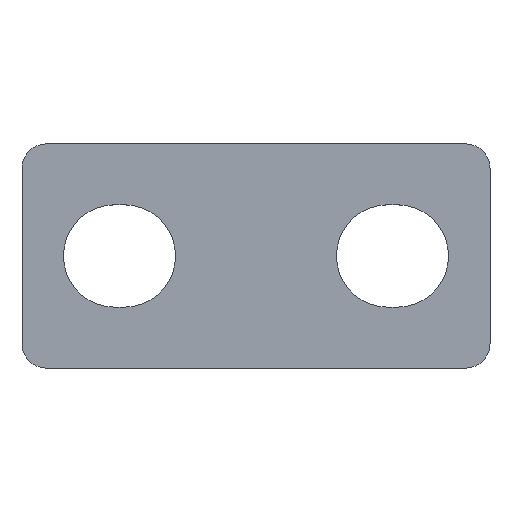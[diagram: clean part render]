
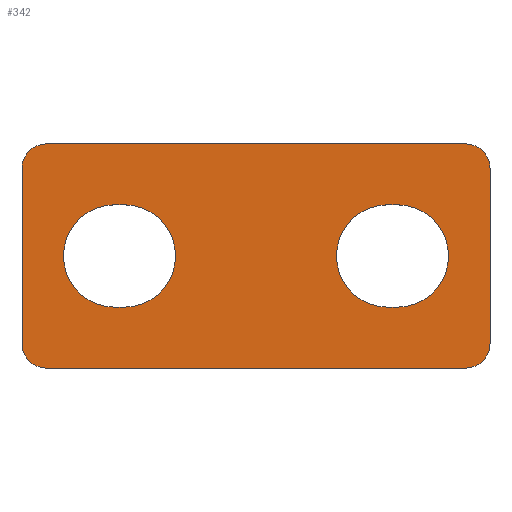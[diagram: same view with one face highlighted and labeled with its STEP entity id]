
A CAD part, top view. The second image highlights one B-rep face of the part: STEP entity #342.
In plain terms, the highlighted planar face has unit normal (0, 0, 1).
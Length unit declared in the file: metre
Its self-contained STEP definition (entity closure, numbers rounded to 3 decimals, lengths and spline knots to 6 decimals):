
#13=CIRCLE('',#367,0.00525);
#15=CIRCLE('',#371,0.00525);
#17=CIRCLE('',#375,0.00525);
#19=CIRCLE('',#378,0.00525);
#20=CIRCLE('',#382,0.0025);
#21=CIRCLE('',#383,0.0025);
#22=CIRCLE('',#384,0.0025);
#23=CIRCLE('',#385,0.0025);
#84=ORIENTED_EDGE('',*,*,#156,.T.);
#85=ORIENTED_EDGE('',*,*,#160,.T.);
#86=ORIENTED_EDGE('',*,*,#163,.T.);
#87=ORIENTED_EDGE('',*,*,#167,.F.);
#88=ORIENTED_EDGE('',*,*,#146,.F.);
#89=ORIENTED_EDGE('',*,*,#150,.T.);
#90=ORIENTED_EDGE('',*,*,#153,.T.);
#91=ORIENTED_EDGE('',*,*,#165,.T.);
#92=ORIENTED_EDGE('',*,*,#142,.T.);
#93=ORIENTED_EDGE('',*,*,#172,.T.);
#94=ORIENTED_EDGE('',*,*,#168,.F.);
#95=ORIENTED_EDGE('',*,*,#173,.T.);
#96=ORIENTED_EDGE('',*,*,#132,.F.);
#97=ORIENTED_EDGE('',*,*,#174,.T.);
#98=ORIENTED_EDGE('',*,*,#136,.T.);
#99=ORIENTED_EDGE('',*,*,#175,.T.);
#132=EDGE_CURVE('',#180,#181,#212,.T.);
#136=EDGE_CURVE('',#184,#185,#216,.T.);
#142=EDGE_CURVE('',#191,#190,#222,.T.);
#146=EDGE_CURVE('',#194,#195,#226,.T.);
#150=EDGE_CURVE('',#194,#197,#13,.T.);
#153=EDGE_CURVE('',#197,#199,#231,.T.);
#156=EDGE_CURVE('',#203,#202,#15,.T.);
#160=EDGE_CURVE('',#202,#205,#236,.T.);
#163=EDGE_CURVE('',#205,#207,#17,.T.);
#165=EDGE_CURVE('',#199,#195,#19,.T.);
#167=EDGE_CURVE('',#203,#207,#239,.T.);
#168=EDGE_CURVE('',#208,#209,#240,.T.);
#172=EDGE_CURVE('',#190,#209,#20,.T.);
#173=EDGE_CURVE('',#208,#181,#21,.T.);
#174=EDGE_CURVE('',#180,#184,#22,.T.);
#175=EDGE_CURVE('',#185,#191,#23,.T.);
#180=VERTEX_POINT('',#500);
#181=VERTEX_POINT('',#501);
#184=VERTEX_POINT('',#509);
#185=VERTEX_POINT('',#510);
#190=VERTEX_POINT('',#521);
#191=VERTEX_POINT('',#523);
#194=VERTEX_POINT('',#530);
#195=VERTEX_POINT('',#532);
#197=VERTEX_POINT('',#538);
#199=VERTEX_POINT('',#544);
#202=VERTEX_POINT('',#551);
#203=VERTEX_POINT('',#553);
#205=VERTEX_POINT('',#559);
#207=VERTEX_POINT('',#565);
#208=VERTEX_POINT('',#575);
#209=VERTEX_POINT('',#576);
#212=LINE('',#499,#244);
#216=LINE('',#508,#248);
#222=LINE('',#522,#254);
#226=LINE('',#531,#258);
#231=LINE('',#545,#263);
#236=LINE('',#560,#268);
#239=LINE('',#572,#271);
#240=LINE('',#574,#272);
#244=VECTOR('',#399,1.);
#248=VECTOR('',#405,1.);
#254=VECTOR('',#413,1.);
#258=VECTOR('',#419,1.);
#263=VECTOR('',#432,1.);
#268=VECTOR('',#445,1.);
#271=VECTOR('',#462,1.);
#272=VECTOR('',#465,1.);
#288=EDGE_LOOP('',(#84,#85,#86,#87));
#289=EDGE_LOOP('',(#88,#89,#90,#91));
#290=EDGE_LOOP('',(#92,#93,#94,#95,#96,#97,#98,#99));
#310=FACE_BOUND('',#288,.T.);
#311=FACE_BOUND('',#289,.T.);
#312=FACE_BOUND('',#290,.T.);
#328=PLANE('',#381);
#342=ADVANCED_FACE('',(#310,#311,#312),#328,.T.);
#367=AXIS2_PLACEMENT_3D('',#539,#426,#427);
#371=AXIS2_PLACEMENT_3D('',#552,#438,#439);
#375=AXIS2_PLACEMENT_3D('',#566,#451,#452);
#378=AXIS2_PLACEMENT_3D('',#569,#457,#458);
#381=AXIS2_PLACEMENT_3D('',#582,#469,#470);
#382=AXIS2_PLACEMENT_3D('',#583,#471,#472);
#383=AXIS2_PLACEMENT_3D('',#584,#473,#474);
#384=AXIS2_PLACEMENT_3D('',#585,#475,#476);
#385=AXIS2_PLACEMENT_3D('',#586,#477,#478);
#399=DIRECTION('',(1.,0.,0.));
#405=DIRECTION('',(0.,-1.,0.));
#413=DIRECTION('',(1.,0.,0.));
#419=DIRECTION('',(-1.,0.,0.));
#426=DIRECTION('',(0.,0.,-1.));
#427=DIRECTION('',(1.,0.,0.));
#432=DIRECTION('',(-1.,0.,0.));
#438=DIRECTION('',(0.,0.,-1.));
#439=DIRECTION('',(1.,0.,0.));
#445=DIRECTION('',(1.,0.,0.));
#451=DIRECTION('',(0.,0.,-1.));
#452=DIRECTION('',(1.,0.,0.));
#457=DIRECTION('',(0.,0.,-1.));
#458=DIRECTION('',(1.,0.,0.));
#462=DIRECTION('',(1.,0.,0.));
#465=DIRECTION('',(0.,-1.,0.));
#469=DIRECTION('',(0.,0.,1.));
#470=DIRECTION('',(1.,0.,0.));
#471=DIRECTION('',(0.,0.,1.));
#472=DIRECTION('',(1.,0.,0.));
#473=DIRECTION('',(0.,0.,1.));
#474=DIRECTION('',(1.,0.,0.));
#475=DIRECTION('',(0.,0.,1.));
#476=DIRECTION('',(1.,0.,0.));
#477=DIRECTION('',(0.,0.,1.));
#478=DIRECTION('',(1.,0.,0.));
#499=CARTESIAN_POINT('',(0.,0.029,0.006));
#500=CARTESIAN_POINT('',(-0.0215,0.029,0.006));
#501=CARTESIAN_POINT('',(0.0215,0.029,0.006));
#508=CARTESIAN_POINT('',(-0.024,0.0175,0.006));
#509=CARTESIAN_POINT('',(-0.024,0.0265,0.006));
#510=CARTESIAN_POINT('',(-0.024,0.0085,0.006));
#521=CARTESIAN_POINT('',(0.0215,0.006,0.006));
#522=CARTESIAN_POINT('',(0.,0.006,0.006));
#523=CARTESIAN_POINT('',(-0.0215,0.006,0.006));
#530=CARTESIAN_POINT('',(0.0145,0.02275,0.006));
#531=CARTESIAN_POINT('',(0.014,0.02275,0.006));
#532=CARTESIAN_POINT('',(0.0135,0.02275,0.006));
#538=CARTESIAN_POINT('',(0.0145,0.01225,0.006));
#539=CARTESIAN_POINT('',(0.0145,0.0175,0.006));
#544=CARTESIAN_POINT('',(0.0135,0.01225,0.006));
#545=CARTESIAN_POINT('',(0.014,0.01225,0.006));
#551=CARTESIAN_POINT('',(-0.0145,0.02275,0.006));
#552=CARTESIAN_POINT('',(-0.0145,0.0175,0.006));
#553=CARTESIAN_POINT('',(-0.0145,0.01225,0.006));
#559=CARTESIAN_POINT('',(-0.0135,0.02275,0.006));
#560=CARTESIAN_POINT('',(-0.014,0.02275,0.006));
#565=CARTESIAN_POINT('',(-0.0135,0.01225,0.006));
#566=CARTESIAN_POINT('',(-0.0135,0.0175,0.006));
#569=CARTESIAN_POINT('',(0.0135,0.0175,0.006));
#572=CARTESIAN_POINT('',(-0.014,0.01225,0.006));
#574=CARTESIAN_POINT('',(0.024,0.0175,0.006));
#575=CARTESIAN_POINT('',(0.024,0.0265,0.006));
#576=CARTESIAN_POINT('',(0.024,0.0085,0.006));
#582=CARTESIAN_POINT('',(0.,0.008406,0.006));
#583=CARTESIAN_POINT('',(0.0215,0.0085,0.006));
#584=CARTESIAN_POINT('',(0.0215,0.0265,0.006));
#585=CARTESIAN_POINT('',(-0.0215,0.0265,0.006));
#586=CARTESIAN_POINT('',(-0.0215,0.0085,0.006));
